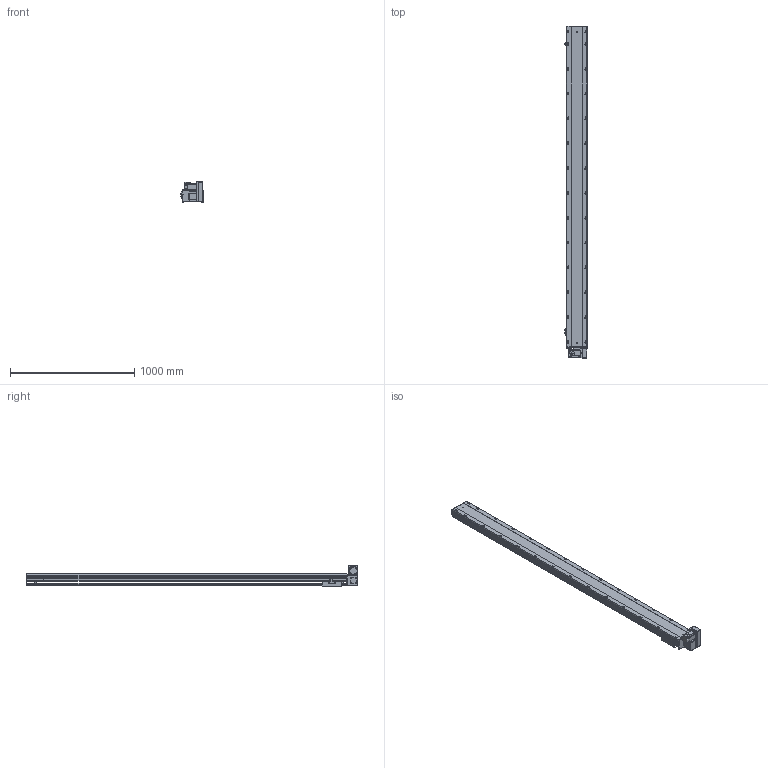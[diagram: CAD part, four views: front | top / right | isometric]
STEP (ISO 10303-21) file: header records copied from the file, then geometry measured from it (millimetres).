
FILE_DESCRIPTION (( 'STEP AP203' ), '1' );
FILE_NAME ('BTB17-L40-2300-LD-M40-C4.STEP', '2022-07-20T05:34:28', ( 'CXY' ), ( 'BT' ), 'SwSTEP 2.0', 'SolidWorks 2016', '' );
FILE_SCHEMA (( 'CONFIG_CONTROL_DESIGN' ));
Length unit declared in the file: millimetre
Products named in the file (11): BTB17-L-23; BTB17-L-24; BTB17-L-HZ; FS-07-T40(1); BTB17-L-01; BTB17-L-04; M40; FS-08-T40; BTB17-L-菁釱_XD; BTB17-L-06; BTB17-L40-2300-LD-M40-C4
Assembly tree (13 placements, depth 2):
  BTB17-L40-2300-LD-M40-C4
    BTB17-L-菁釱_XD
    BTB17-L-01
    BTB17-L-04  x3
    BTB17-L-06
    BTB17-L-23  x2
    BTB17-L-24
    BTB17-L-HZ
    FS-07-T40(1)
    FS-08-T40
    M40
Bounding box: 183.7 x 2673.5 x 161.5 mm (x, y, z)
Volume: 22378158.4 mm3; surface area: 2884516.7 mm2
Topology: 22 solids, 22 shells, 1741 faces, 4559 edges, 2878 vertices
Faces by surface type: plane 921, cylinder 608, cone 180, torus 16, bspline 16
Entity records: 45610 total; most frequent: CARTESIAN_POINT 8842, DIRECTION 7553, ORIENTED_EDGE 7214, EDGE_CURVE 3607, AXIS2_PLACEMENT_3D 2611, VERTEX_POINT 2346, LINE 2331, VECTOR 2331
